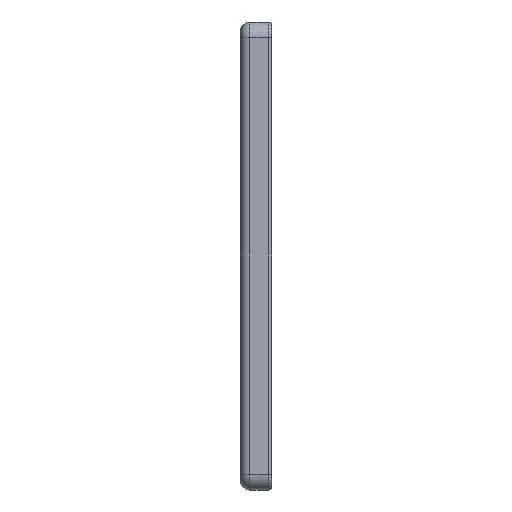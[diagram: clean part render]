
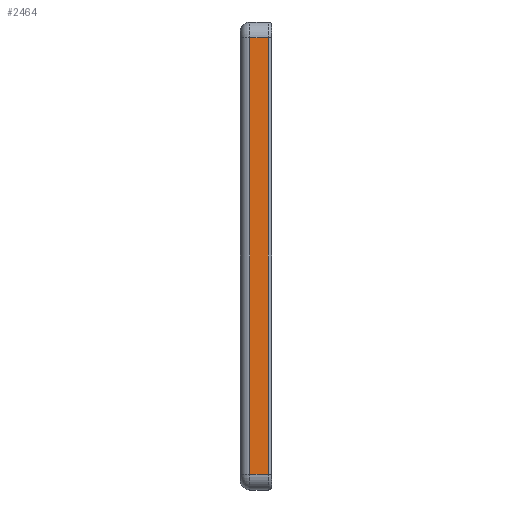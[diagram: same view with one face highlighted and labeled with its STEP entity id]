
A CAD part, left-side view. The second image highlights one B-rep face of the part: STEP entity #2464.
In plain terms, the highlighted planar face has unit normal (-1, 0, 0).
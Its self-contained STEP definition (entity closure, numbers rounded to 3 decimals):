
#882 = FACE_OUTER_BOUND ( 'NONE', #3542, .T. ) ;
#1000 = AXIS2_PLACEMENT_3D ( 'NONE', #1210, #1214, #1215 ) ;
#1210 = CARTESIAN_POINT ( 'NONE',  ( -150., 10., 75. ) ) ;
#1213 = PLANE ( 'NONE',  #1000 ) ;
#1214 = DIRECTION ( 'NONE',  ( 1., 0., 0. ) ) ;
#1215 = DIRECTION ( 'NONE',  ( 0., 0., -1. ) ) ;
#1965 = CARTESIAN_POINT ( 'NONE',  ( -150., 7., -70. ) ) ;
#1981 = CARTESIAN_POINT ( 'NONE',  ( -150., 7., 70. ) ) ;
#1989 = CARTESIAN_POINT ( 'NONE',  ( -150., 1., 70. ) ) ;
#2008 = CARTESIAN_POINT ( 'NONE',  ( -150., 1., -70. ) ) ;
#2236 = EDGE_CURVE ( 'NONE', #3599, #3580, #3173, .T. ) ;
#2238 = EDGE_CURVE ( 'NONE', #3485, #3599, #3175, .T. ) ;
#2240 = EDGE_CURVE ( 'NONE', #3580, #3574, #3178, .T. ) ;
#2246 = EDGE_CURVE ( 'NONE', #3574, #3485, #3187, .T. ) ;
#2303 = CARTESIAN_POINT ( 'NONE',  ( -150., 10., -70. ) ) ;
#2304 = DIRECTION ( 'NONE',  ( 0., 0., 1. ) ) ;
#2306 = CARTESIAN_POINT ( 'NONE',  ( -150., 1., 75. ) ) ;
#2307 = DIRECTION ( 'NONE',  ( 0., -1., 0. ) ) ;
#2315 = CARTESIAN_POINT ( 'NONE',  ( -150., 10., 70. ) ) ;
#2316 = DIRECTION ( 'NONE',  ( 0., 1., 0. ) ) ;
#2328 = CARTESIAN_POINT ( 'NONE',  ( -150., 7., 75. ) ) ;
#2329 = DIRECTION ( 'NONE',  ( 0., 0., -1. ) ) ;
#2464 = ADVANCED_FACE ( 'NONE', ( #882 ), #1213, .F. ) ;
#2803 = ORIENTED_EDGE ( 'NONE', *, *, #2240, .T. ) ;
#2990 = ORIENTED_EDGE ( 'NONE', *, *, #2246, .T. ) ;
#2992 = ORIENTED_EDGE ( 'NONE', *, *, #2236, .T. ) ;
#2993 = ORIENTED_EDGE ( 'NONE', *, *, #2238, .T. ) ;
#3173 = LINE ( 'NONE', #2306, #3174 ) ;
#3174 = VECTOR ( 'NONE', #2304, 1000. ) ;
#3175 = LINE ( 'NONE', #2303, #3177 ) ;
#3177 = VECTOR ( 'NONE', #2307, 1000. ) ;
#3178 = LINE ( 'NONE', #2315, #3181 ) ;
#3181 = VECTOR ( 'NONE', #2316, 1000. ) ;
#3187 = LINE ( 'NONE', #2328, #3190 ) ;
#3190 = VECTOR ( 'NONE', #2329, 1000. ) ;
#3485 = VERTEX_POINT ( 'NONE', #1965 ) ;
#3542 = EDGE_LOOP ( 'NONE', ( #2993, #2992, #2803, #2990 ) ) ;
#3574 = VERTEX_POINT ( 'NONE', #1981 ) ;
#3580 = VERTEX_POINT ( 'NONE', #1989 ) ;
#3599 = VERTEX_POINT ( 'NONE', #2008 ) ;
